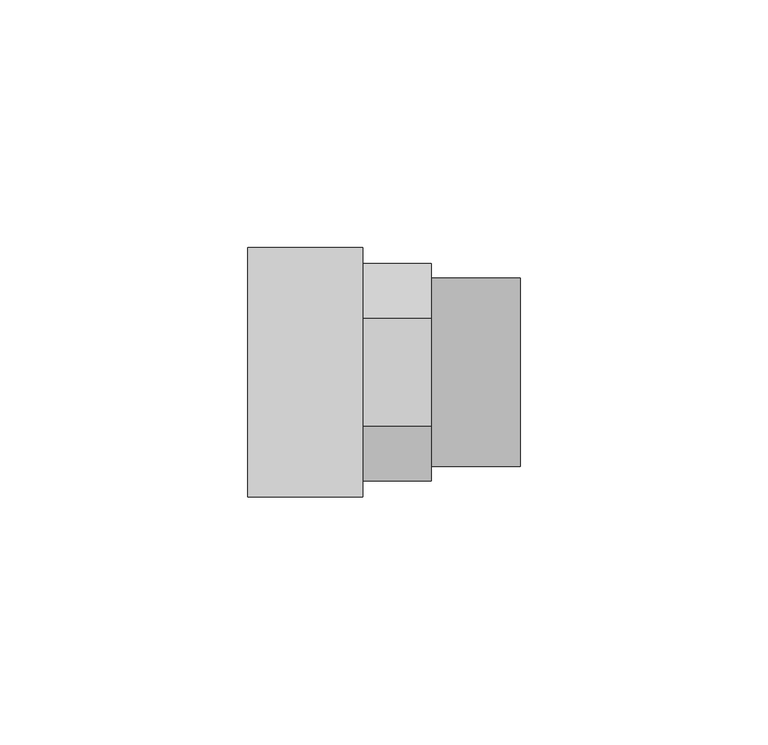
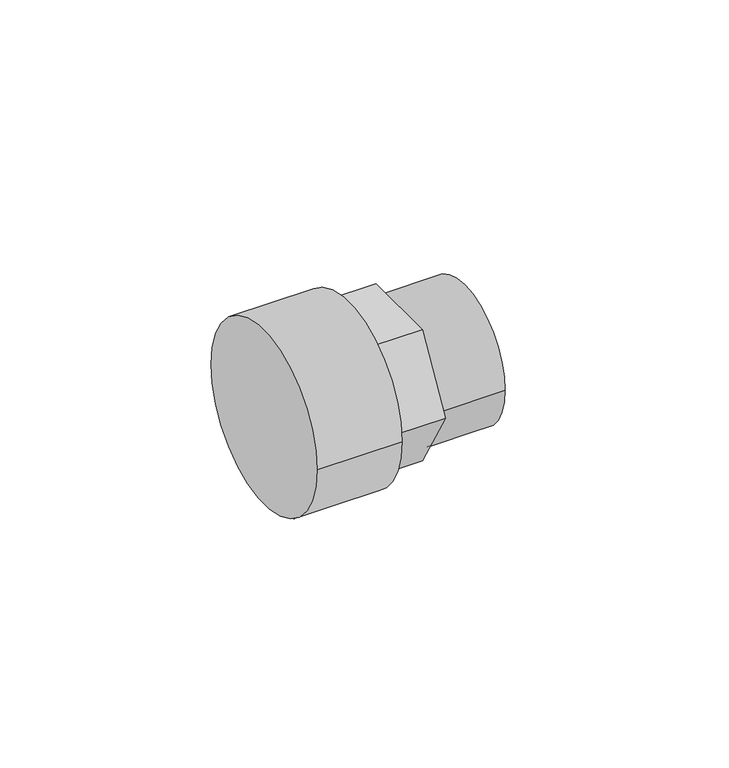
"""IFC4 building model written with IfcOpenShell, lengths in millimetres: pipe fitting geometry, 01011006 : Uniões de redução M/F."""

from ifc_helpers import new_model, si_unit, point, frame, origin, origin_2d, place, context, project, spatial, polyline, circle_curve, trimmed, segment, composite_curve, outline, extrude, source, transform, mapped, element, save


def pipe_fitting_e2c75a99(model_context):
    return source(origin(), model_context, "Body", "SweptSolid", [
        extrude(outline(composite_curve([segment(trimmed(circle_curve(origin_2d(), 25.2), [point((25.2, 0.0))], [point((-25.2, 0.0))], False, "CARTESIAN"), True, "CONTINUOUS"), segment(trimmed(circle_curve(origin_2d(), 25.2), [point((-25.2, 0.0))], [point((25.2, 0.0))], False, "CARTESIAN"), True, "CONTINUOUS")], self_intersect=False)), frame((0.0, 0.0, 0.0), z_axis=(1.0, 0.0, 0.0), x_axis=(0.0, 1.0, 0.0)), (0.0, 0.0, 1.0), 23.25),
        extrude(outline(polyline([(-10.9696551, 19.0), (10.9696551, 19.0), (21.9393102, 0.0), (10.9696551, -19.0), (-10.9696551, -19.0), (-21.9393102, 0.0), (-10.9696551, 19.0)])), frame((23.25, 0.0, 0.0), z_axis=(1.0, 0.0, 0.0), x_axis=(0.0, 1.0, 0.0)), (0.0, 0.0, 1.0), 13.75),
        extrude(outline(composite_curve([segment(trimmed(circle_curve(origin_2d(), 19.0), [point((-19.0, 0.0))], [point((19.0, 0.0))], False, "CARTESIAN"), True, "CONTINUOUS"), segment(trimmed(circle_curve(origin_2d(), 19.0), [point((19.0, 0.0))], [point((-19.0, 0.0))], False, "CARTESIAN"), True, "CONTINUOUS")], self_intersect=False)), frame((37.0, 0.0, 0.0), z_axis=(1.0, 0.0, 0.0), x_axis=(0.0, 1.0, 0.0)), (0.0, 0.0, 1.0), 18.0),
    ])


if __name__ == "__main__":
    model = new_model("IFC4")
    model_context = context("Model", 3, world=origin())
    ifc_project = project(units=[si_unit("LENGTHUNIT", "METRE", prefix="MILLI")], contexts=[model_context])
    site = spatial("IfcSite", under=ifc_project)
    building = spatial("IfcBuilding", under=site)
    placement = place(None, origin())
    pipe_fitting_shape = pipe_fitting_e2c75a99(model_context)
    element("IfcPipeFitting", 1, ObjectType="01011006 : Uniões de redução M/F", at=placement, inside=building, context=model_context, shape_type="MappedRepresentation", body=[
        mapped(pipe_fitting_shape, transform((0.0, 0.0, 0.0), x_axis=(1.0, 0.0, 0.0), y_axis=(0.0, 1.0, 0.0), z_axis=(0.0, 0.0, 1.0))),
    ])
    save(model, "model.ifc")
